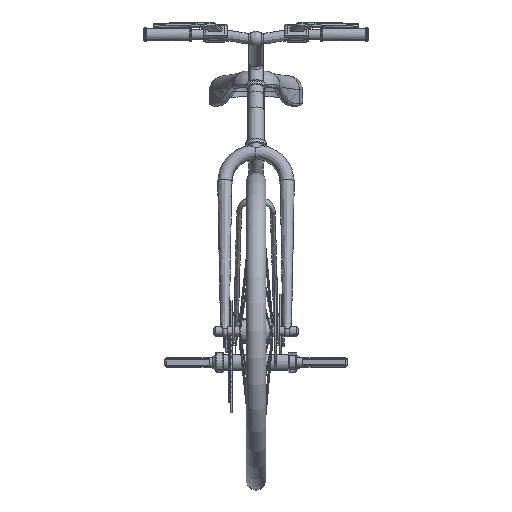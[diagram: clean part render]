
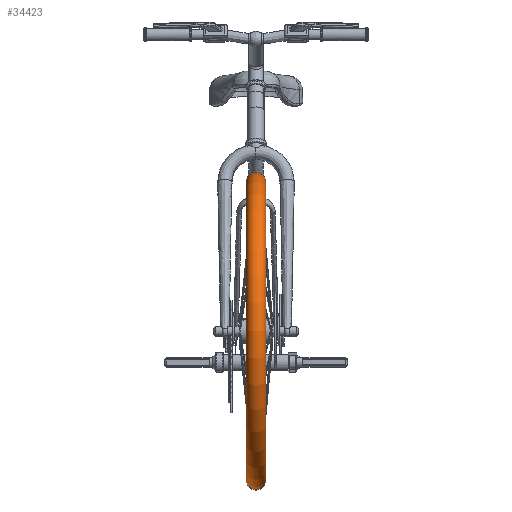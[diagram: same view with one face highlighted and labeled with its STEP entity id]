
A CAD part, top view. The second image highlights one B-rep face of the part: STEP entity #34423.
In plain terms, the highlighted toroidal (fillet/blend) face has major radius 309.484 mm and minor radius 20.716 mm.
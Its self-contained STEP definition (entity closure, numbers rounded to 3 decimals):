
#173=TOROIDAL_SURFACE('',#36928,309.484,20.716);
#1405=CIRCLE('',#36929,295.);
#1406=CIRCLE('',#36930,295.);
#1407=CIRCLE('',#36931,20.716);
#1408=CIRCLE('',#36932,295.);
#1409=CIRCLE('',#36933,295.);
#4023=FACE_OUTER_BOUND('',#5932,.T.);
#5932=EDGE_LOOP('',(#23277,#23278,#23279,#23280,#23281,#23282));
#13142=VERTEX_POINT('',#56587);
#13143=VERTEX_POINT('',#56588);
#13144=VERTEX_POINT('',#56591);
#13145=VERTEX_POINT('',#56593);
#17026=EDGE_CURVE('',#13142,#13143,#1405,.T.);
#17027=EDGE_CURVE('',#13143,#13142,#1406,.T.);
#17028=EDGE_CURVE('',#13143,#13144,#1407,.T.);
#17029=EDGE_CURVE('',#13144,#13145,#1408,.T.);
#17030=EDGE_CURVE('',#13145,#13144,#1409,.T.);
#23277=ORIENTED_EDGE('',*,*,#17026,.F.);
#23278=ORIENTED_EDGE('',*,*,#17027,.F.);
#23279=ORIENTED_EDGE('',*,*,#17028,.T.);
#23280=ORIENTED_EDGE('',*,*,#17029,.T.);
#23281=ORIENTED_EDGE('',*,*,#17030,.T.);
#23282=ORIENTED_EDGE('',*,*,#17028,.F.);
#34423=ADVANCED_FACE('',(#4023),#173,.T.);
#36928=AXIS2_PLACEMENT_3D('',#56586,#42566,#42567);
#36929=AXIS2_PLACEMENT_3D('',#56589,#42568,#42569);
#36930=AXIS2_PLACEMENT_3D('',#56590,#42570,#42571);
#36931=AXIS2_PLACEMENT_3D('',#56592,#42572,#42573);
#36932=AXIS2_PLACEMENT_3D('',#56594,#42574,#42575);
#36933=AXIS2_PLACEMENT_3D('',#56595,#42576,#42577);
#42566=DIRECTION('center_axis',(1.,0.,0.));
#42567=DIRECTION('ref_axis',(0.,0.,-1.));
#42568=DIRECTION('center_axis',(1.,0.,0.));
#42569=DIRECTION('ref_axis',(0.,0.,-1.));
#42570=DIRECTION('center_axis',(1.,0.,0.));
#42571=DIRECTION('ref_axis',(0.,0.,-1.));
#42572=DIRECTION('center_axis',(0.,-1.,0.));
#42573=DIRECTION('ref_axis',(0.,0.,1.));
#42574=DIRECTION('center_axis',(1.,0.,0.));
#42575=DIRECTION('ref_axis',(0.,0.,-1.));
#42576=DIRECTION('center_axis',(1.,0.,0.));
#42577=DIRECTION('ref_axis',(0.,0.,-1.));
#56586=CARTESIAN_POINT('Origin',(0.,0.,0.));
#56587=CARTESIAN_POINT('',(14.812,295.,0.));
#56588=CARTESIAN_POINT('',(14.812,0.,295.));
#56589=CARTESIAN_POINT('Origin',(14.812,0.,0.));
#56590=CARTESIAN_POINT('Origin',(14.812,0.,0.));
#56591=CARTESIAN_POINT('',(-14.812,0.,295.));
#56592=CARTESIAN_POINT('Origin',(0.,0.,309.484));
#56593=CARTESIAN_POINT('',(-14.812,295.,0.));
#56594=CARTESIAN_POINT('Origin',(-14.812,0.,0.));
#56595=CARTESIAN_POINT('Origin',(-14.812,0.,0.));
